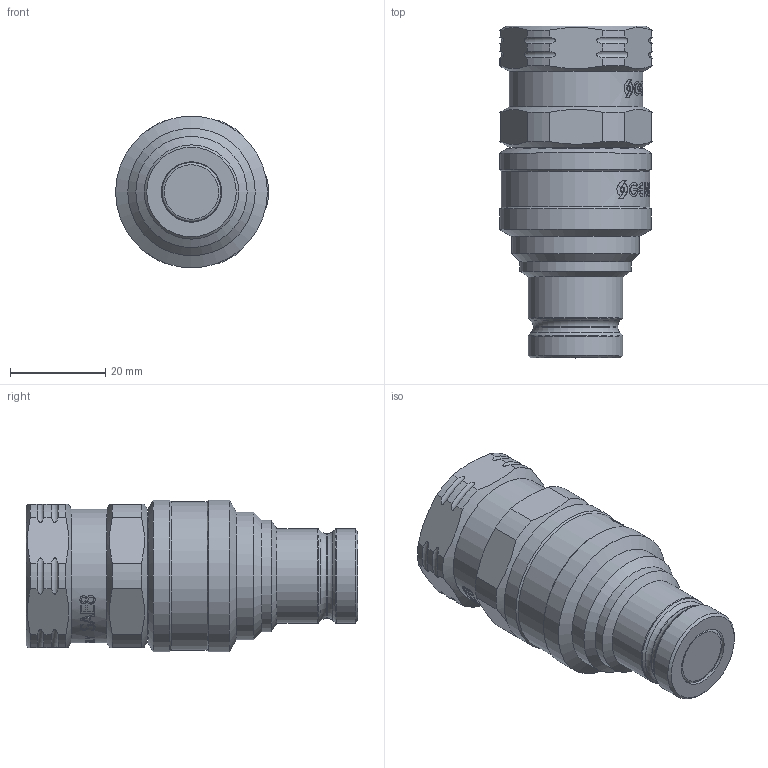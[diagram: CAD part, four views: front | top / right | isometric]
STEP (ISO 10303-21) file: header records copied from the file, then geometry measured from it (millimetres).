
FILE_DESCRIPTION(/* description */ (''),/* implementation_level */ '2;1');
FILE_NAME(/* name */ 'NC05S030000.stp',/* time_stamp */ '2024-11-19T11:26:12+01:00',/* author */ ('thomas.belotti'),/* organization */ (''),/* preprocessor_version */ 'ST-DEVELOPER v20',/* originating_system */ 'Autodesk Inventor 2024',/* authorisation */ '');
FILE_SCHEMA (('AUTOMOTIVE_DESIGN { 1 0 10303 214 3 1 1 }'));
Length unit declared in the file: millimetre
Products named in the file (1): Parte16
Bounding box: 32.02 x 69.5 x 31.8 mm (x, y, z)
Volume: 36907.4 mm3; surface area: 9081.9 mm2
Topology: 1 solids, 2 shells, 1105 faces, 3147 edges, 2089 vertices
Faces by surface type: bspline 716, plane 261, cylinder 92, cone 18, torus 18
Full cylindrical faces by diameter (mm): 12.65 x1, 17.272 x1, 17.5 x1, 17.65 x1, 18 x1, 19.75 x2, 23.3 x1, 26 x1, 26.3 x1, 26.7 x1, 28 x1, 31.1 x1, 31.8 x2
Entity records: 48171 total; most frequent: CARTESIAN_POINT 23016, ORIENTED_EDGE 6294, EDGE_CURVE 3147, DIRECTION 2792, VERTEX_POINT 2089, B_SPLINE_CURVE_WITH_KNOTS 1506, LINE 1214, VECTOR 1214
